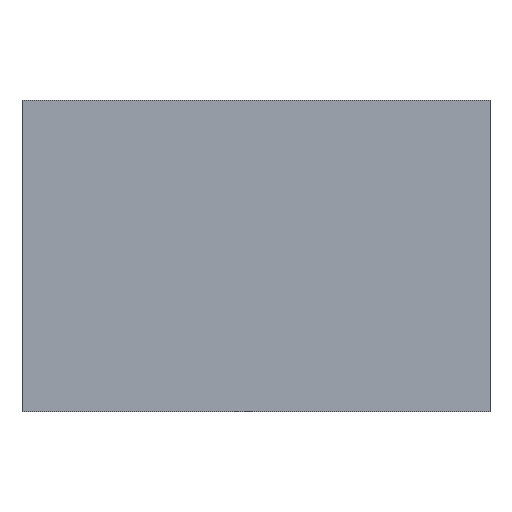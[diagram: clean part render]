
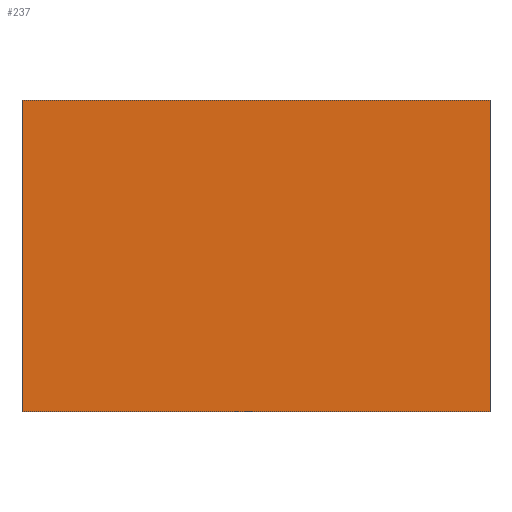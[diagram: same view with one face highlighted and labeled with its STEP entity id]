
A CAD part, front view. The second image highlights one B-rep face of the part: STEP entity #237.
In plain terms, the highlighted planar face has unit normal (0, -1, 0).
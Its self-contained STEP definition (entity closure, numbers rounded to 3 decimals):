
#21 = EDGE_CURVE('',#22,#24,#26,.T.);
#22 = VERTEX_POINT('',#23);
#23 = CARTESIAN_POINT('',(-2.8,-13.4,10.65));
#24 = VERTEX_POINT('',#25);
#25 = CARTESIAN_POINT('',(-2.8,-13.4,10.85));
#26 = SURFACE_CURVE('',#27,(#31,#43),.PCURVE_S1.);
#27 = LINE('',#28,#29);
#28 = CARTESIAN_POINT('',(-2.8,-13.4,10.65));
#29 = VECTOR('',#30,1.);
#30 = DIRECTION('',(0.,0.,1.));
#31 = PCURVE('',#32,#37);
#32 = PLANE('',#33);
#33 = AXIS2_PLACEMENT_3D('',#34,#35,#36);
#34 = CARTESIAN_POINT('',(-2.8,-13.4,10.65));
#35 = DIRECTION('',(1.,0.,0.));
#36 = DIRECTION('',(0.,0.,1.));
#37 = DEFINITIONAL_REPRESENTATION('',(#38),#42);
#38 = LINE('',#39,#40);
#39 = CARTESIAN_POINT('',(0.,0.));
#40 = VECTOR('',#41,1.);
#41 = DIRECTION('',(1.,0.));
#42 = ( GEOMETRIC_REPRESENTATION_CONTEXT(2) 
PARAMETRIC_REPRESENTATION_CONTEXT() REPRESENTATION_CONTEXT('2D SPACE',''
  ) );
#43 = PCURVE('',#44,#49);
#44 = PLANE('',#45);
#45 = AXIS2_PLACEMENT_3D('',#46,#47,#48);
#46 = CARTESIAN_POINT('',(-2.8,-13.4,10.65));
#47 = DIRECTION('',(0.,1.,0.));
#48 = DIRECTION('',(0.,-0.,1.));
#49 = DEFINITIONAL_REPRESENTATION('',(#50),#54);
#50 = LINE('',#51,#52);
#51 = CARTESIAN_POINT('',(0.,0.));
#52 = VECTOR('',#53,1.);
#53 = DIRECTION('',(1.,0.));
#54 = ( GEOMETRIC_REPRESENTATION_CONTEXT(2) 
PARAMETRIC_REPRESENTATION_CONTEXT() REPRESENTATION_CONTEXT('2D SPACE',''
  ) );
#72 = PLANE('',#73);
#73 = AXIS2_PLACEMENT_3D('',#74,#75,#76);
#74 = CARTESIAN_POINT('',(-2.8,-13.4,10.65));
#75 = DIRECTION('',(0.,0.,1.));
#76 = DIRECTION('',(1.,0.,-0.));
#126 = PLANE('',#127);
#127 = AXIS2_PLACEMENT_3D('',#128,#129,#130);
#128 = CARTESIAN_POINT('',(-2.8,-13.4,10.85));
#129 = DIRECTION('',(0.,0.,1.));
#130 = DIRECTION('',(1.,0.,-0.));
#141 = EDGE_CURVE('',#142,#144,#146,.T.);
#142 = VERTEX_POINT('',#143);
#143 = CARTESIAN_POINT('',(-2.5,-13.4,10.65));
#144 = VERTEX_POINT('',#145);
#145 = CARTESIAN_POINT('',(-2.5,-13.4,10.85));
#146 = SURFACE_CURVE('',#147,(#151,#163),.PCURVE_S1.);
#147 = LINE('',#148,#149);
#148 = CARTESIAN_POINT('',(-2.5,-13.4,10.65));
#149 = VECTOR('',#150,1.);
#150 = DIRECTION('',(0.,0.,1.));
#151 = PCURVE('',#152,#157);
#152 = PLANE('',#153);
#153 = AXIS2_PLACEMENT_3D('',#154,#155,#156);
#154 = CARTESIAN_POINT('',(-2.5,-13.4,10.65));
#155 = DIRECTION('',(1.,0.,0.));
#156 = DIRECTION('',(0.,0.,1.));
#157 = DEFINITIONAL_REPRESENTATION('',(#158),#162);
#158 = LINE('',#159,#160);
#159 = CARTESIAN_POINT('',(0.,0.));
#160 = VECTOR('',#161,1.);
#161 = DIRECTION('',(1.,0.));
#162 = ( GEOMETRIC_REPRESENTATION_CONTEXT(2) 
PARAMETRIC_REPRESENTATION_CONTEXT() REPRESENTATION_CONTEXT('2D SPACE',''
  ) );
#163 = PCURVE('',#44,#164);
#164 = DEFINITIONAL_REPRESENTATION('',(#165),#169);
#165 = LINE('',#166,#167);
#166 = CARTESIAN_POINT('',(0.,0.3));
#167 = VECTOR('',#168,1.);
#168 = DIRECTION('',(1.,0.));
#169 = ( GEOMETRIC_REPRESENTATION_CONTEXT(2) 
PARAMETRIC_REPRESENTATION_CONTEXT() REPRESENTATION_CONTEXT('2D SPACE',''
  ) );
#237 = ADVANCED_FACE('',(#238),#44,.F.);
#238 = FACE_BOUND('',#239,.F.);
#239 = EDGE_LOOP('',(#240,#261,#262,#283));
#240 = ORIENTED_EDGE('',*,*,#241,.F.);
#241 = EDGE_CURVE('',#22,#142,#242,.T.);
#242 = SURFACE_CURVE('',#243,(#247,#254),.PCURVE_S1.);
#243 = LINE('',#244,#245);
#244 = CARTESIAN_POINT('',(-2.8,-13.4,10.65));
#245 = VECTOR('',#246,1.);
#246 = DIRECTION('',(1.,0.,0.));
#247 = PCURVE('',#44,#248);
#248 = DEFINITIONAL_REPRESENTATION('',(#249),#253);
#249 = LINE('',#250,#251);
#250 = CARTESIAN_POINT('',(0.,0.));
#251 = VECTOR('',#252,1.);
#252 = DIRECTION('',(0.,1.));
#253 = ( GEOMETRIC_REPRESENTATION_CONTEXT(2) 
PARAMETRIC_REPRESENTATION_CONTEXT() REPRESENTATION_CONTEXT('2D SPACE',''
  ) );
#254 = PCURVE('',#72,#255);
#255 = DEFINITIONAL_REPRESENTATION('',(#256),#260);
#256 = LINE('',#257,#258);
#257 = CARTESIAN_POINT('',(0.,0.));
#258 = VECTOR('',#259,1.);
#259 = DIRECTION('',(1.,0.));
#260 = ( GEOMETRIC_REPRESENTATION_CONTEXT(2) 
PARAMETRIC_REPRESENTATION_CONTEXT() REPRESENTATION_CONTEXT('2D SPACE',''
  ) );
#261 = ORIENTED_EDGE('',*,*,#21,.T.);
#262 = ORIENTED_EDGE('',*,*,#263,.T.);
#263 = EDGE_CURVE('',#24,#144,#264,.T.);
#264 = SURFACE_CURVE('',#265,(#269,#276),.PCURVE_S1.);
#265 = LINE('',#266,#267);
#266 = CARTESIAN_POINT('',(-2.8,-13.4,10.85));
#267 = VECTOR('',#268,1.);
#268 = DIRECTION('',(1.,0.,0.));
#269 = PCURVE('',#44,#270);
#270 = DEFINITIONAL_REPRESENTATION('',(#271),#275);
#271 = LINE('',#272,#273);
#272 = CARTESIAN_POINT('',(0.2,0.));
#273 = VECTOR('',#274,1.);
#274 = DIRECTION('',(0.,1.));
#275 = ( GEOMETRIC_REPRESENTATION_CONTEXT(2) 
PARAMETRIC_REPRESENTATION_CONTEXT() REPRESENTATION_CONTEXT('2D SPACE',''
  ) );
#276 = PCURVE('',#126,#277);
#277 = DEFINITIONAL_REPRESENTATION('',(#278),#282);
#278 = LINE('',#279,#280);
#279 = CARTESIAN_POINT('',(0.,0.));
#280 = VECTOR('',#281,1.);
#281 = DIRECTION('',(1.,0.));
#282 = ( GEOMETRIC_REPRESENTATION_CONTEXT(2) 
PARAMETRIC_REPRESENTATION_CONTEXT() REPRESENTATION_CONTEXT('2D SPACE',''
  ) );
#283 = ORIENTED_EDGE('',*,*,#141,.F.);
